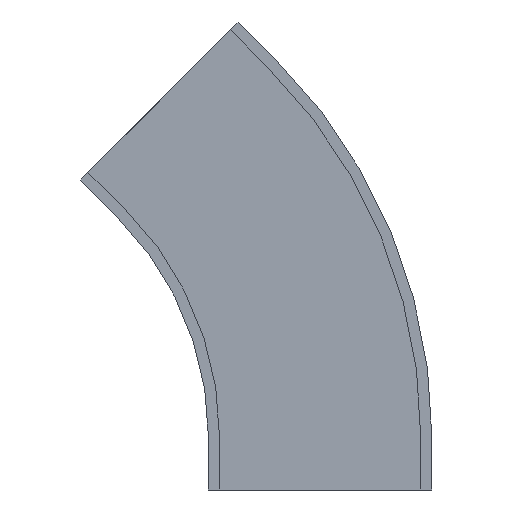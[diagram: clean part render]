
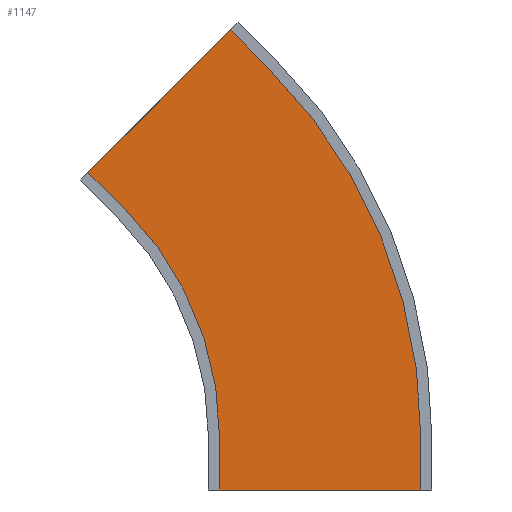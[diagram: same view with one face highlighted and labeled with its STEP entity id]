
A CAD part, front view. The second image highlights one B-rep face of the part: STEP entity #1147.
In plain terms, the highlighted planar face has unit normal (0, -1, 0).
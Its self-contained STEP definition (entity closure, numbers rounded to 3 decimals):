
#169 = CARTESIAN_POINT ( 'NONE',  ( 990.5, -68., -100. ) ) ;
#172 = CARTESIAN_POINT ( 'NONE',  ( 360.271, -68., 501.692 ) ) ;
#173 = CARTESIAN_POINT ( 'NONE',  ( 700.389, -68., 700.389 ) ) ;
#174 = CARTESIAN_POINT ( 'NONE',  ( 629.679, -68., 771.1 ) ) ;
#175 = CARTESIAN_POINT ( 'NONE',  ( 609.5, -68., -100. ) ) ;
#176 = CARTESIAN_POINT ( 'NONE',  ( 609.5, -68., 0. ) ) ;
#180 = CARTESIAN_POINT ( 'NONE',  ( 990.5, -68., 0. ) ) ;
#184 = CARTESIAN_POINT ( 'NONE',  ( 430.982, -68., 430.982 ) ) ;
#260 = DIRECTION ( 'NONE',  ( -1., 0., 0. ) ) ;
#261 = DIRECTION ( 'NONE',  ( 0., 1., 0. ) ) ;
#263 = PLANE ( 'NONE',  #1076 ) ;
#268 = CARTESIAN_POINT ( 'NONE',  ( 430.982, -68., 430.982 ) ) ;
#507 = EDGE_LOOP ( 'NONE', ( #1167, #1168, #1169, #1170, #1171, #1172, #1173, #1174 ) ) ;
#596 = DIRECTION ( 'NONE',  ( -1., 0., 0. ) ) ;
#597 = DIRECTION ( 'NONE',  ( 0., 1., 0. ) ) ;
#598 = CARTESIAN_POINT ( 'NONE',  ( 0., -68., 0. ) ) ;
#604 = DIRECTION ( 'NONE',  ( -1., 0., 0. ) ) ;
#605 = DIRECTION ( 'NONE',  ( 0., 1., 0. ) ) ;
#606 = CARTESIAN_POINT ( 'NONE',  ( 0., -68., 0. ) ) ;
#722 = DIRECTION ( 'NONE',  ( 0., 0., 1. ) ) ;
#728 = CARTESIAN_POINT ( 'NONE',  ( 990.5, -68., -100. ) ) ;
#730 = CARTESIAN_POINT ( 'NONE',  ( 360.271, -68., 501.692 ) ) ;
#734 = CARTESIAN_POINT ( 'NONE',  ( 0., -68., -100. ) ) ;
#735 = DIRECTION ( 'NONE',  ( -1., 0., 0. ) ) ;
#736 = CARTESIAN_POINT ( 'NONE',  ( 609.5, -68., -100. ) ) ;
#737 = DIRECTION ( 'NONE',  ( 0., 0., 1. ) ) ;
#738 = DIRECTION ( 'NONE',  ( 0.707, 0., -0.707 ) ) ;
#739 = CARTESIAN_POINT ( 'NONE',  ( -70.711, -68., 70.711 ) ) ;
#740 = DIRECTION ( 'NONE',  ( 0.707, 0., 0.707 ) ) ;
#741 = CARTESIAN_POINT ( 'NONE',  ( 629.679, -68., 771.1 ) ) ;
#742 = DIRECTION ( 'NONE',  ( 0.707, 0., -0.707 ) ) ;
#839 = EDGE_CURVE ( 'NONE', #1315, #1306, #1544, .T. ) ;
#842 = EDGE_CURVE ( 'NONE', #1309, #1312, #1546, .T. ) ;
#890 = EDGE_CURVE ( 'NONE', #1319, #1306, #1637, .T. ) ;
#891 = EDGE_CURVE ( 'NONE', #1319, #1313, #1638, .T. ) ;
#892 = EDGE_CURVE ( 'NONE', #1313, #1312, #1640, .T. ) ;
#893 = EDGE_CURVE ( 'NONE', #1316, #1309, #1635, .T. ) ;
#894 = EDGE_CURVE ( 'NONE', #1316, #1314, #1644, .T. ) ;
#895 = EDGE_CURVE ( 'NONE', #1314, #1315, #1646, .T. ) ;
#1005 = AXIS2_PLACEMENT_3D ( 'NONE', #606, #605, #604 ) ;
#1006 = AXIS2_PLACEMENT_3D ( 'NONE', #598, #597, #596 ) ;
#1076 = AXIS2_PLACEMENT_3D ( 'NONE', #268, #261, #260 ) ;
#1147 = ADVANCED_FACE ( 'NONE', ( #1901 ), #263, .F. ) ;
#1167 = ORIENTED_EDGE ( 'NONE', *, *, #839, .F. ) ;
#1168 = ORIENTED_EDGE ( 'NONE', *, *, #895, .F. ) ;
#1169 = ORIENTED_EDGE ( 'NONE', *, *, #894, .F. ) ;
#1170 = ORIENTED_EDGE ( 'NONE', *, *, #893, .T. ) ;
#1171 = ORIENTED_EDGE ( 'NONE', *, *, #842, .T. ) ;
#1172 = ORIENTED_EDGE ( 'NONE', *, *, #892, .F. ) ;
#1173 = ORIENTED_EDGE ( 'NONE', *, *, #891, .F. ) ;
#1174 = ORIENTED_EDGE ( 'NONE', *, *, #890, .T. ) ;
#1306 = VERTEX_POINT ( 'NONE', #180 ) ;
#1309 = VERTEX_POINT ( 'NONE', #184 ) ;
#1312 = VERTEX_POINT ( 'NONE', #176 ) ;
#1313 = VERTEX_POINT ( 'NONE', #175 ) ;
#1314 = VERTEX_POINT ( 'NONE', #174 ) ;
#1315 = VERTEX_POINT ( 'NONE', #173 ) ;
#1316 = VERTEX_POINT ( 'NONE', #172 ) ;
#1319 = VERTEX_POINT ( 'NONE', #169 ) ;
#1544 = CIRCLE ( 'NONE', #1005, 990.5 ) ;
#1546 = CIRCLE ( 'NONE', #1006, 609.5 ) ;
#1635 = LINE ( 'NONE', #730, #1645 ) ;
#1637 = LINE ( 'NONE', #728, #1639 ) ;
#1638 = LINE ( 'NONE', #734, #1641 ) ;
#1639 = VECTOR ( 'NONE', #722, 1000. ) ;
#1640 = LINE ( 'NONE', #736, #1643 ) ;
#1641 = VECTOR ( 'NONE', #735, 1000. ) ;
#1643 = VECTOR ( 'NONE', #737, 1000. ) ;
#1644 = LINE ( 'NONE', #739, #1647 ) ;
#1645 = VECTOR ( 'NONE', #738, 1000. ) ;
#1646 = LINE ( 'NONE', #741, #1649 ) ;
#1647 = VECTOR ( 'NONE', #740, 1000. ) ;
#1649 = VECTOR ( 'NONE', #742, 1000. ) ;
#1901 = FACE_OUTER_BOUND ( 'NONE', #507, .T. ) ;
